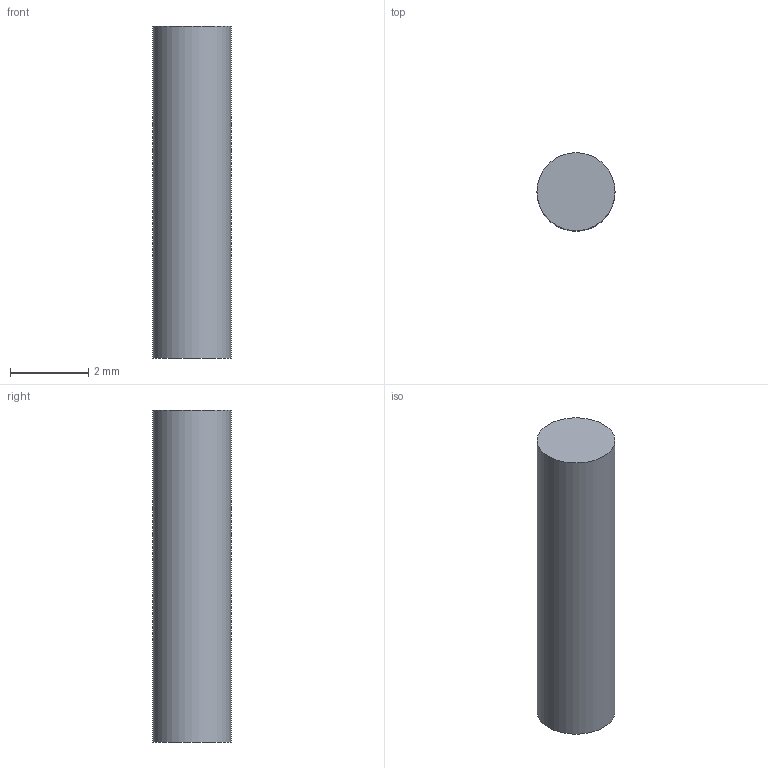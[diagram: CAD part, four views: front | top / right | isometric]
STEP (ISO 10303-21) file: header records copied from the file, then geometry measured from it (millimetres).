
FILE_DESCRIPTION(('Open CASCADE Model'),'2;1');
FILE_NAME('Open CASCADE Shape Model','2026-09-06T11:23:54',('Author'),( 'Open CASCADE'),'Open CASCADE STEP processor 7.7','Open CASCADE 7.7' ,'Unknown');
FILE_SCHEMA(('AUTOMOTIVE_DESIGN { 1 0 10303 214 1 1 1 1 }'));
Length unit declared in the file: millimetre
Products named in the file (1): Open CASCADE STEP translator 7.7 30
Bounding box: 2 x 2 x 8.5 mm (x, y, z)
Volume: 26.7 mm3; surface area: 59.7 mm2
Topology: 1 solids, 1 shells, 3 faces, 3 edges, 2 vertices
Faces by surface type: plane 2, cylinder 1
Full cylindrical faces by diameter (mm): 2 x1
Entity records: 108 total; most frequent: DIRECTION 19, CARTESIAN_POINT 15, AXIS2_PLACEMENT_3D 6, ORIENTED_EDGE 6, PCURVE 6, DEFINITIONAL_REPRESENTATION 6, LINE 5, VECTOR 5
